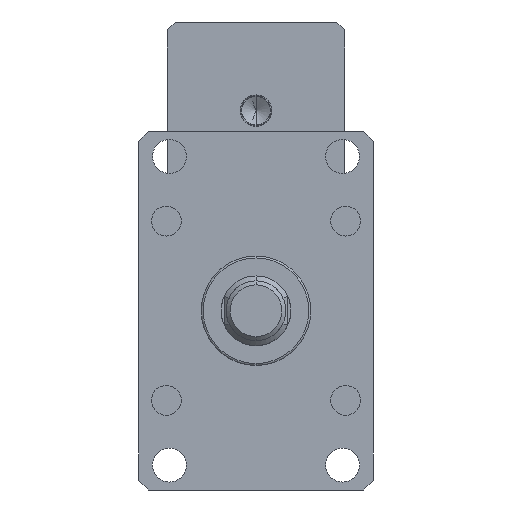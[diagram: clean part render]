
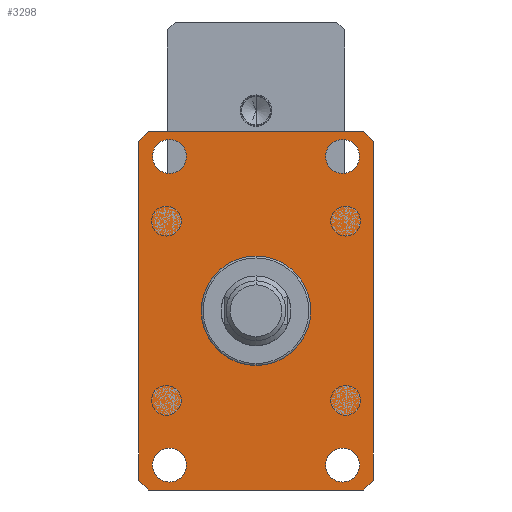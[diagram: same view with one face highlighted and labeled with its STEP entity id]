
A CAD part, front view. The second image highlights one B-rep face of the part: STEP entity #3298.
In plain terms, the highlighted planar face has unit normal (0, -1, 0).
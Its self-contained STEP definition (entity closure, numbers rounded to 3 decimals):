
#29 = DIRECTION ( 'NONE',  ( 0.707, 0., 0.707 ) ) ;
#155 = VECTOR ( 'NONE', #6072, 1000. ) ;
#277 = CARTESIAN_POINT ( 'NONE',  ( -59., -55., 85. ) ) ;
#446 = VECTOR ( 'NONE', #29, 1000. ) ;
#463 = VECTOR ( 'NONE', #4060, 1000. ) ;
#558 = VERTEX_POINT ( 'NONE', #5544 ) ;
#722 = CARTESIAN_POINT ( 'NONE',  ( 43.5, -55., -86. ) ) ;
#728 = CARTESIAN_POINT ( 'NONE',  ( 59., -55., 85. ) ) ;
#759 = DIRECTION ( 'NONE',  ( 0.707, 0., -0.707 ) ) ;
#798 = EDGE_CURVE ( 'NONE', #7227, #11548, #3907, .T. ) ;
#883 = DIRECTION ( 'NONE',  ( 0., 1., 0. ) ) ;
#889 = CARTESIAN_POINT ( 'NONE',  ( 59., -55., 90. ) ) ;
#947 = CARTESIAN_POINT ( 'NONE',  ( -43.5, -55., -69. ) ) ;
#1090 = EDGE_CURVE ( 'NONE', #10292, #8014, #1113, .T. ) ;
#1113 = CIRCLE ( 'NONE', #4546, 8.5 ) ;
#1129 = ORIENTED_EDGE ( 'NONE', *, *, #11006, .T. ) ;
#1136 = VERTEX_POINT ( 'NONE', #3363 ) ;
#1145 = CARTESIAN_POINT ( 'NONE',  ( 43.5, -55., 69. ) ) ;
#1166 = ORIENTED_EDGE ( 'NONE', *, *, #3648, .T. ) ;
#1341 = CARTESIAN_POINT ( 'NONE',  ( -43.5, -55., -86. ) ) ;
#1447 = ORIENTED_EDGE ( 'NONE', *, *, #6406, .T. ) ;
#1481 = AXIS2_PLACEMENT_3D ( 'NONE', #6708, #883, #7694 ) ;
#1699 = ORIENTED_EDGE ( 'NONE', *, *, #1090, .T. ) ;
#1818 = ORIENTED_EDGE ( 'NONE', *, *, #11556, .T. ) ;
#1868 = CIRCLE ( 'NONE', #12261, 8.5 ) ;
#1913 = VERTEX_POINT ( 'NONE', #6082 ) ;
#2020 = CIRCLE ( 'NONE', #8520, 8.5 ) ;
#2147 = VERTEX_POINT ( 'NONE', #8700 ) ;
#2154 = CARTESIAN_POINT ( 'NONE',  ( 59., -55., 85. ) ) ;
#2288 = EDGE_CURVE ( 'NONE', #11548, #7227, #7237, .T. ) ;
#2301 = EDGE_LOOP ( 'NONE', ( #4727, #8692 ) ) ;
#2383 = DIRECTION ( 'NONE',  ( 0., -1., 0. ) ) ;
#2646 = LINE ( 'NONE', #12099, #10326 ) ;
#2657 = FACE_BOUND ( 'NONE', #12201, .T. ) ;
#2844 = DIRECTION ( 'NONE',  ( 0., -1., 0. ) ) ;
#2878 = DIRECTION ( 'NONE',  ( 0., 0., 1. ) ) ;
#2968 = CARTESIAN_POINT ( 'NONE',  ( -54., -55., -90. ) ) ;
#3041 = CARTESIAN_POINT ( 'NONE',  ( -43.5, -55., 86. ) ) ;
#3298 = ADVANCED_FACE ( 'NONE', ( #9451, #2657, #6884, #4352, #9732 ), #7700, .F. ) ;
#3322 = EDGE_LOOP ( 'NONE', ( #8941, #3577 ) ) ;
#3363 = CARTESIAN_POINT ( 'NONE',  ( 54., -55., 90. ) ) ;
#3524 = ORIENTED_EDGE ( 'NONE', *, *, #11047, .T. ) ;
#3577 = ORIENTED_EDGE ( 'NONE', *, *, #4001, .F. ) ;
#3626 = VECTOR ( 'NONE', #8907, 1000. ) ;
#3648 = EDGE_CURVE ( 'NONE', #1136, #7085, #2646, .T. ) ;
#3907 = CIRCLE ( 'NONE', #1481, 8.5 ) ;
#3918 = CARTESIAN_POINT ( 'NONE',  ( 59., -55., -85. ) ) ;
#4001 = EDGE_CURVE ( 'NONE', #2147, #8139, #5578, .T. ) ;
#4060 = DIRECTION ( 'NONE',  ( 0., 0., -1. ) ) ;
#4086 = EDGE_LOOP ( 'NONE', ( #8646, #10256 ) ) ;
#4153 = DIRECTION ( 'NONE',  ( -0.707, 0., 0.707 ) ) ;
#4352 = FACE_OUTER_BOUND ( 'NONE', #9914, .T. ) ;
#4447 = DIRECTION ( 'NONE',  ( 0., -1., 0. ) ) ;
#4546 = AXIS2_PLACEMENT_3D ( 'NONE', #5312, #12017, #6258 ) ;
#4727 = ORIENTED_EDGE ( 'NONE', *, *, #2288, .T. ) ;
#4966 = LINE ( 'NONE', #9887, #9755 ) ;
#5008 = CARTESIAN_POINT ( 'NONE',  ( 43.5, -55., -77.5 ) ) ;
#5312 = CARTESIAN_POINT ( 'NONE',  ( 43.5, -55., -77.5 ) ) ;
#5491 = DIRECTION ( 'NONE',  ( 0., 1., 0. ) ) ;
#5544 = CARTESIAN_POINT ( 'NONE',  ( -59., -55., 85. ) ) ;
#5578 = CIRCLE ( 'NONE', #11452, 8.5 ) ;
#5622 = AXIS2_PLACEMENT_3D ( 'NONE', #5008, #11699, #5970 ) ;
#5669 = EDGE_CURVE ( 'NONE', #6508, #10016, #2020, .T. ) ;
#5680 = LINE ( 'NONE', #9790, #463 ) ;
#5773 = DIRECTION ( 'NONE',  ( 0., -1., 0. ) ) ;
#5828 = EDGE_CURVE ( 'NONE', #558, #11815, #5680, .T. ) ;
#5910 = EDGE_CURVE ( 'NONE', #7658, #6534, #10165, .T. ) ;
#5970 = DIRECTION ( 'NONE',  ( 0., 0., 1. ) ) ;
#6072 = DIRECTION ( 'NONE',  ( 0., 0., 1. ) ) ;
#6082 = CARTESIAN_POINT ( 'NONE',  ( -54., -55., -90. ) ) ;
#6221 = ORIENTED_EDGE ( 'NONE', *, *, #5910, .T. ) ;
#6258 = DIRECTION ( 'NONE',  ( 0., 0., 1. ) ) ;
#6337 = DIRECTION ( 'NONE',  ( -1., 0., 0. ) ) ;
#6406 = EDGE_CURVE ( 'NONE', #7689, #7658, #10728, .T. ) ;
#6508 = VERTEX_POINT ( 'NONE', #1145 ) ;
#6534 = VERTEX_POINT ( 'NONE', #728 ) ;
#6681 = CARTESIAN_POINT ( 'NONE',  ( 43.5, -55., -69. ) ) ;
#6708 = CARTESIAN_POINT ( 'NONE',  ( -43.5, -55., -77.5 ) ) ;
#6760 = CIRCLE ( 'NONE', #5622, 8.5 ) ;
#6768 = CARTESIAN_POINT ( 'NONE',  ( -54., -55., 90. ) ) ;
#6836 = LINE ( 'NONE', #12329, #9101 ) ;
#6884 = FACE_BOUND ( 'NONE', #2301, .T. ) ;
#6894 = VECTOR ( 'NONE', #8757, 1000. ) ;
#6954 = CARTESIAN_POINT ( 'NONE',  ( 59., -55., -85. ) ) ;
#6977 = EDGE_CURVE ( 'NONE', #11815, #1913, #6836, .T. ) ;
#7085 = VERTEX_POINT ( 'NONE', #6768 ) ;
#7116 = ORIENTED_EDGE ( 'NONE', *, *, #11135, .T. ) ;
#7227 = VERTEX_POINT ( 'NONE', #1341 ) ;
#7234 = EDGE_CURVE ( 'NONE', #8139, #2147, #9546, .T. ) ;
#7237 = CIRCLE ( 'NONE', #7589, 8.5 ) ;
#7589 = AXIS2_PLACEMENT_3D ( 'NONE', #11197, #5491, #12211 ) ;
#7658 = VERTEX_POINT ( 'NONE', #6954 ) ;
#7689 = VERTEX_POINT ( 'NONE', #11807 ) ;
#7692 = AXIS2_PLACEMENT_3D ( 'NONE', #889, #8651, #2878 ) ;
#7694 = DIRECTION ( 'NONE',  ( 0., 0., 1. ) ) ;
#7700 = PLANE ( 'NONE',  #7692 ) ;
#8014 = VERTEX_POINT ( 'NONE', #6681 ) ;
#8139 = VERTEX_POINT ( 'NONE', #3041 ) ;
#8172 = CARTESIAN_POINT ( 'NONE',  ( -43.5, -55., 77.5 ) ) ;
#8520 = AXIS2_PLACEMENT_3D ( 'NONE', #10166, #4447, #11122 ) ;
#8620 = CARTESIAN_POINT ( 'NONE',  ( -43.5, -55., 77.5 ) ) ;
#8646 = ORIENTED_EDGE ( 'NONE', *, *, #12323, .F. ) ;
#8651 = DIRECTION ( 'NONE',  ( 0., 1., 0. ) ) ;
#8692 = ORIENTED_EDGE ( 'NONE', *, *, #798, .T. ) ;
#8700 = CARTESIAN_POINT ( 'NONE',  ( -43.5, -55., 69. ) ) ;
#8757 = DIRECTION ( 'NONE',  ( 1., 0., 0. ) ) ;
#8907 = DIRECTION ( 'NONE',  ( -0.707, 0., -0.707 ) ) ;
#8941 = ORIENTED_EDGE ( 'NONE', *, *, #7234, .F. ) ;
#9101 = VECTOR ( 'NONE', #759, 1000. ) ;
#9132 = DIRECTION ( 'NONE',  ( 0., 0., -1. ) ) ;
#9451 = FACE_BOUND ( 'NONE', #3322, .T. ) ;
#9463 = LINE ( 'NONE', #2968, #6894 ) ;
#9471 = ORIENTED_EDGE ( 'NONE', *, *, #5828, .T. ) ;
#9546 = CIRCLE ( 'NONE', #11095, 8.5 ) ;
#9583 = DIRECTION ( 'NONE',  ( 0., 0., -1. ) ) ;
#9732 = FACE_BOUND ( 'NONE', #4086, .T. ) ;
#9748 = ORIENTED_EDGE ( 'NONE', *, *, #6977, .T. ) ;
#9755 = VECTOR ( 'NONE', #4153, 1000. ) ;
#9790 = CARTESIAN_POINT ( 'NONE',  ( -59., -55., 85. ) ) ;
#9887 = CARTESIAN_POINT ( 'NONE',  ( 54., -55., 90. ) ) ;
#9914 = EDGE_LOOP ( 'NONE', ( #1166, #3524, #9471, #9748, #1818, #1447, #6221, #7116 ) ) ;
#10016 = VERTEX_POINT ( 'NONE', #10909 ) ;
#10165 = LINE ( 'NONE', #2154, #155 ) ;
#10166 = CARTESIAN_POINT ( 'NONE',  ( 43.5, -55., 77.5 ) ) ;
#10256 = ORIENTED_EDGE ( 'NONE', *, *, #5669, .F. ) ;
#10292 = VERTEX_POINT ( 'NONE', #722 ) ;
#10326 = VECTOR ( 'NONE', #6337, 1000. ) ;
#10728 = LINE ( 'NONE', #3918, #446 ) ;
#10909 = CARTESIAN_POINT ( 'NONE',  ( 43.5, -55., 86. ) ) ;
#10942 = LINE ( 'NONE', #277, #3626 ) ;
#11006 = EDGE_CURVE ( 'NONE', #8014, #10292, #6760, .T. ) ;
#11047 = EDGE_CURVE ( 'NONE', #7085, #558, #10942, .T. ) ;
#11095 = AXIS2_PLACEMENT_3D ( 'NONE', #8172, #2383, #9132 ) ;
#11122 = DIRECTION ( 'NONE',  ( 0., 0., -1. ) ) ;
#11135 = EDGE_CURVE ( 'NONE', #6534, #1136, #4966, .T. ) ;
#11197 = CARTESIAN_POINT ( 'NONE',  ( -43.5, -55., -77.5 ) ) ;
#11452 = AXIS2_PLACEMENT_3D ( 'NONE', #8620, #2844, #9583 ) ;
#11471 = CARTESIAN_POINT ( 'NONE',  ( 43.5, -55., 77.5 ) ) ;
#11548 = VERTEX_POINT ( 'NONE', #947 ) ;
#11556 = EDGE_CURVE ( 'NONE', #1913, #7689, #9463, .T. ) ;
#11699 = DIRECTION ( 'NONE',  ( 0., 1., 0. ) ) ;
#11807 = CARTESIAN_POINT ( 'NONE',  ( 54., -55., -90. ) ) ;
#11815 = VERTEX_POINT ( 'NONE', #12034 ) ;
#12017 = DIRECTION ( 'NONE',  ( 0., 1., 0. ) ) ;
#12034 = CARTESIAN_POINT ( 'NONE',  ( -59., -55., -85. ) ) ;
#12099 = CARTESIAN_POINT ( 'NONE',  ( -54., -55., 90. ) ) ;
#12201 = EDGE_LOOP ( 'NONE', ( #1129, #1699 ) ) ;
#12211 = DIRECTION ( 'NONE',  ( 0., 0., 1. ) ) ;
#12261 = AXIS2_PLACEMENT_3D ( 'NONE', #11471, #5773, #12485 ) ;
#12323 = EDGE_CURVE ( 'NONE', #10016, #6508, #1868, .T. ) ;
#12329 = CARTESIAN_POINT ( 'NONE',  ( -59., -55., -85. ) ) ;
#12485 = DIRECTION ( 'NONE',  ( 0., 0., -1. ) ) ;
